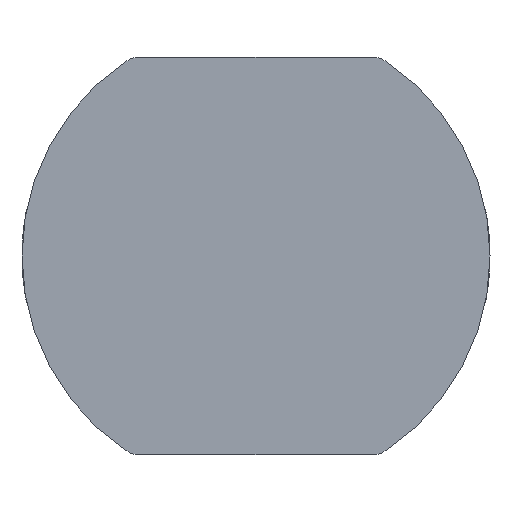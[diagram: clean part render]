
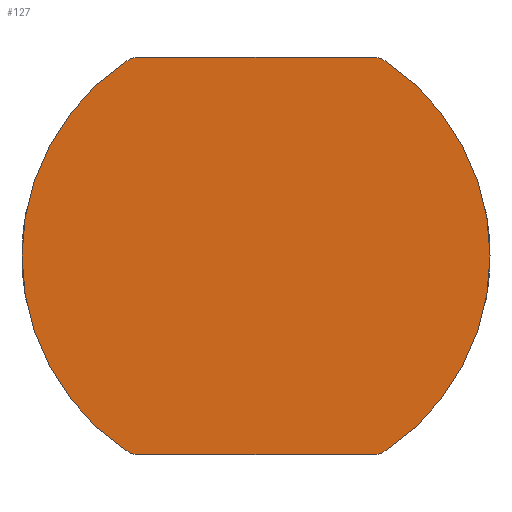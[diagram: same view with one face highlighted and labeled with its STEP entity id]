
A CAD part, front view. The second image highlights one B-rep face of the part: STEP entity #127.
In plain terms, the highlighted planar face has unit normal (0, -1, 0).
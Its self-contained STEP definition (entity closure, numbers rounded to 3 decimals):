
#82 = CARTESIAN_POINT ( 'NONE',  ( 0., -7.5, 8.5 ) ) ;
#127 = ADVANCED_FACE ( 'NONE', ( #458 ), #2135, .T. ) ;
#164 = EDGE_CURVE ( 'NONE', #2334, #1365, #1202, .T. ) ;
#216 = ORIENTED_EDGE ( 'NONE', *, *, #164, .T. ) ;
#274 = CARTESIAN_POINT ( 'NONE',  ( -4.975, -7.5, 7.5 ) ) ;
#316 = EDGE_CURVE ( 'NONE', #2303, #622, #1252, .T. ) ;
#323 = CIRCLE ( 'NONE', #615, 10. ) ;
#328 = DIRECTION ( 'NONE',  ( 0., -1., 0. ) ) ;
#458 = FACE_OUTER_BOUND ( 'NONE', #1867, .T. ) ;
#463 = AXIS2_PLACEMENT_3D ( 'NONE', #1567, #2504, #1765 ) ;
#514 = DIRECTION ( 'NONE',  ( 0., -1., 0. ) ) ;
#526 = EDGE_CURVE ( 'NONE', #2165, #2303, #2181, .T. ) ;
#613 = AXIS2_PLACEMENT_3D ( 'NONE', #1327, #1122, #2034 ) ;
#615 = AXIS2_PLACEMENT_3D ( 'NONE', #1155, #1126, #2067 ) ;
#622 = VERTEX_POINT ( 'NONE', #1736 ) ;
#756 = CARTESIAN_POINT ( 'NONE',  ( 4.975, -7.5, 7.5 ) ) ;
#809 = DIRECTION ( 'NONE',  ( -1., 0., 0. ) ) ;
#824 = EDGE_CURVE ( 'NONE', #1629, #622, #2237, .T. ) ;
#1090 = CARTESIAN_POINT ( 'NONE',  ( -5.528, -7.5, -8.333 ) ) ;
#1103 = ORIENTED_EDGE ( 'NONE', *, *, #2652, .T. ) ;
#1122 = DIRECTION ( 'NONE',  ( 0., -1., 0. ) ) ;
#1126 = DIRECTION ( 'NONE',  ( 0., 1., 0. ) ) ;
#1155 = CARTESIAN_POINT ( 'NONE',  ( 0., -7.5, 0. ) ) ;
#1177 = AXIS2_PLACEMENT_3D ( 'NONE', #756, #514, #2657 ) ;
#1202 = CIRCLE ( 'NONE', #613, 1. ) ;
#1214 = DIRECTION ( 'NONE',  ( 0., -1., 0. ) ) ;
#1224 = CARTESIAN_POINT ( 'NONE',  ( -4.975, -7.5, -7.5 ) ) ;
#1227 = AXIS2_PLACEMENT_3D ( 'NONE', #1224, #328, #2194 ) ;
#1252 = CIRCLE ( 'NONE', #2329, 1. ) ;
#1314 = CARTESIAN_POINT ( 'NONE',  ( 4.975, -7.5, -8.5 ) ) ;
#1327 = CARTESIAN_POINT ( 'NONE',  ( 4.975, -7.5, -7.5 ) ) ;
#1346 = ORIENTED_EDGE ( 'NONE', *, *, #824, .F. ) ;
#1365 = VERTEX_POINT ( 'NONE', #1924 ) ;
#1409 = DIRECTION ( 'NONE',  ( 0., -1., 0. ) ) ;
#1429 = VECTOR ( 'NONE', #1880, 1000. ) ;
#1485 = ORIENTED_EDGE ( 'NONE', *, *, #2661, .T. ) ;
#1567 = CARTESIAN_POINT ( 'NONE',  ( 0., -7.5, 0. ) ) ;
#1629 = VERTEX_POINT ( 'NONE', #1090 ) ;
#1736 = CARTESIAN_POINT ( 'NONE',  ( -5.528, -7.5, 8.333 ) ) ;
#1765 = DIRECTION ( 'NONE',  ( 0., 0., 1. ) ) ;
#1782 = CARTESIAN_POINT ( 'NONE',  ( 5.528, -7.5, 8.333 ) ) ;
#1867 = EDGE_LOOP ( 'NONE', ( #1346, #1485, #1889, #216, #2508, #1103, #2631, #2062 ) ) ;
#1880 = DIRECTION ( 'NONE',  ( 1., 0., 0. ) ) ;
#1889 = ORIENTED_EDGE ( 'NONE', *, *, #2395, .T. ) ;
#1924 = CARTESIAN_POINT ( 'NONE',  ( 5.528, -7.5, -8.333 ) ) ;
#1975 = EDGE_CURVE ( 'NONE', #3001, #1365, #323, .T. ) ;
#2010 = CARTESIAN_POINT ( 'NONE',  ( 4.975, -7.5, 8.5 ) ) ;
#2034 = DIRECTION ( 'NONE',  ( 0., 0., -1. ) ) ;
#2062 = ORIENTED_EDGE ( 'NONE', *, *, #316, .T. ) ;
#2067 = DIRECTION ( 'NONE',  ( 0., 0., 1. ) ) ;
#2079 = CARTESIAN_POINT ( 'NONE',  ( -4.975, -7.5, 8.5 ) ) ;
#2129 = CARTESIAN_POINT ( 'NONE',  ( 0., -7.5, -8.5 ) ) ;
#2130 = VERTEX_POINT ( 'NONE', #2571 ) ;
#2135 = PLANE ( 'NONE',  #2431 ) ;
#2165 = VERTEX_POINT ( 'NONE', #2010 ) ;
#2181 = LINE ( 'NONE', #82, #2630 ) ;
#2194 = DIRECTION ( 'NONE',  ( 0., 0., -1. ) ) ;
#2237 = CIRCLE ( 'NONE', #463, 10. ) ;
#2303 = VERTEX_POINT ( 'NONE', #2079 ) ;
#2318 = DIRECTION ( 'NONE',  ( 0., 0., -1. ) ) ;
#2329 = AXIS2_PLACEMENT_3D ( 'NONE', #274, #1214, #2318 ) ;
#2334 = VERTEX_POINT ( 'NONE', #1314 ) ;
#2343 = DIRECTION ( 'NONE',  ( 0., 0., 1. ) ) ;
#2360 = CIRCLE ( 'NONE', #1227, 1. ) ;
#2395 = EDGE_CURVE ( 'NONE', #2130, #2334, #2835, .T. ) ;
#2431 = AXIS2_PLACEMENT_3D ( 'NONE', #2773, #1409, #2343 ) ;
#2504 = DIRECTION ( 'NONE',  ( 0., 1., 0. ) ) ;
#2508 = ORIENTED_EDGE ( 'NONE', *, *, #1975, .F. ) ;
#2557 = CIRCLE ( 'NONE', #1177, 1. ) ;
#2571 = CARTESIAN_POINT ( 'NONE',  ( -4.975, -7.5, -8.5 ) ) ;
#2630 = VECTOR ( 'NONE', #809, 1000. ) ;
#2631 = ORIENTED_EDGE ( 'NONE', *, *, #526, .T. ) ;
#2652 = EDGE_CURVE ( 'NONE', #3001, #2165, #2557, .T. ) ;
#2657 = DIRECTION ( 'NONE',  ( 0., 0., -1. ) ) ;
#2661 = EDGE_CURVE ( 'NONE', #1629, #2130, #2360, .T. ) ;
#2773 = CARTESIAN_POINT ( 'NONE',  ( 0., -7.5, 0. ) ) ;
#2835 = LINE ( 'NONE', #2129, #1429 ) ;
#3001 = VERTEX_POINT ( 'NONE', #1782 ) ;
